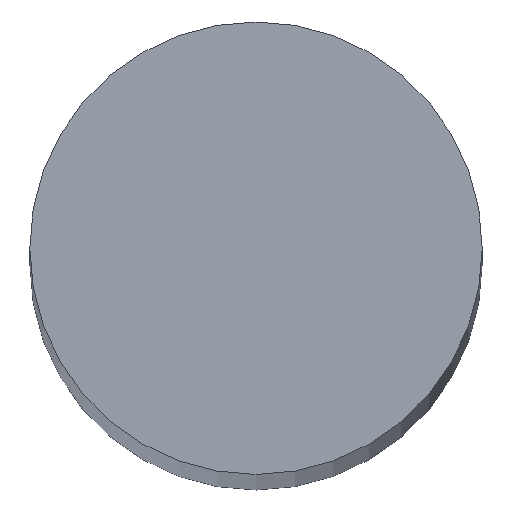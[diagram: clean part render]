
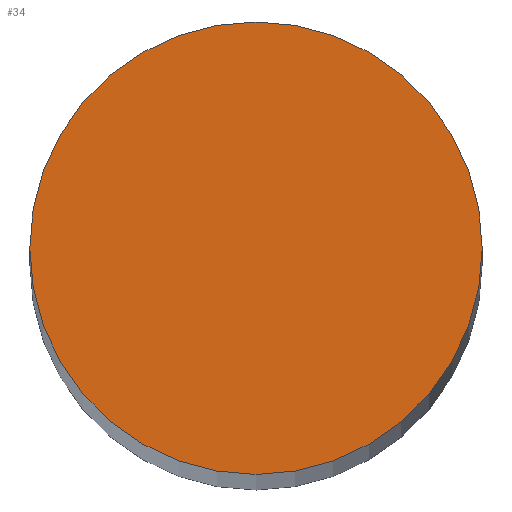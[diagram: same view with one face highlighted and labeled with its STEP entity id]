
A CAD part, top view. The second image highlights one B-rep face of the part: STEP entity #34.
In plain terms, the highlighted planar face has unit normal (0, 0, 1).
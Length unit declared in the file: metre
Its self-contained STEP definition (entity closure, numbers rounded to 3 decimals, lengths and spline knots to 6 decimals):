
#12=PLANE('',#52);
#16=ORIENTED_EDGE('',*,*,#18,.T.);
#18=EDGE_CURVE('',#20,#20,#22,.T.);
#20=VERTEX_POINT('',#69);
#22=CIRCLE('',#50,0.00165);
#26=EDGE_LOOP('',(#16));
#30=FACE_BOUND('',#26,.T.);
#34=ADVANCED_FACE('',(#30),#12,.T.);
#50=AXIS2_PLACEMENT_3D('',#68,#58,#59);
#52=AXIS2_PLACEMENT_3D('',#72,#62,#63);
#58=DIRECTION('',(0.,0.,1.));
#59=DIRECTION('',(1.,0.,0.));
#62=DIRECTION('',(0.,0.,1.));
#63=DIRECTION('',(1.,0.,0.));
#68=CARTESIAN_POINT('',(0.211653,-0.191944,0.065));
#69=CARTESIAN_POINT('',(0.213303,-0.191944,0.065));
#72=CARTESIAN_POINT('',(0.211653,-0.191944,0.065));
